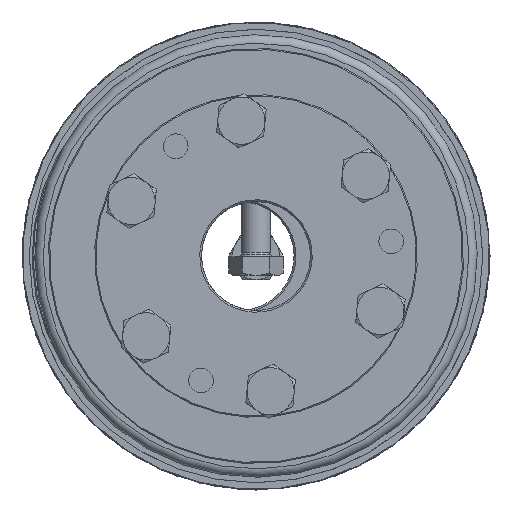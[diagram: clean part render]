
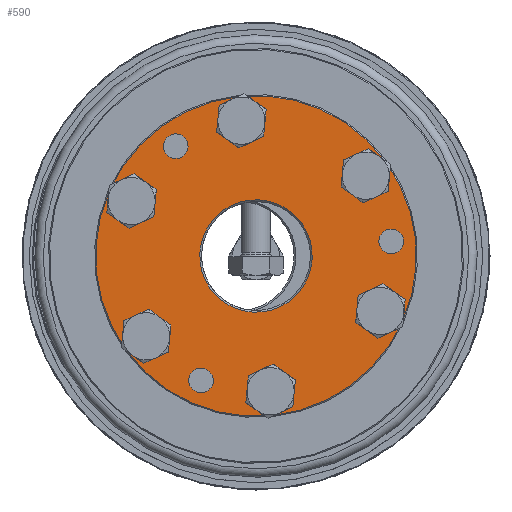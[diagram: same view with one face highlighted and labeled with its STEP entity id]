
A CAD part, left-side view. The second image highlights one B-rep face of the part: STEP entity #590.
In plain terms, the highlighted planar face has unit normal (-1, 0, 0).
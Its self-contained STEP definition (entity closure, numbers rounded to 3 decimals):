
#590 = ADVANCED_FACE( 'NONE', ( #1051, #1052, #1053, #1054, #1055, #1056, #1057, #1058, #1059, #1060, #1061 ), #1062, .F. );
#1051 = FACE_OUTER_BOUND( '', #1742, .T. );
#1052 = FACE_BOUND( '', #1743, .T. );
#1053 = FACE_BOUND( '', #1744, .T. );
#1054 = FACE_BOUND( '', #1745, .T. );
#1055 = FACE_BOUND( '', #1746, .T. );
#1056 = FACE_BOUND( '', #1747, .T. );
#1057 = FACE_BOUND( '', #1748, .T. );
#1058 = FACE_BOUND( '', #1749, .T. );
#1059 = FACE_BOUND( '', #1750, .T. );
#1060 = FACE_BOUND( '', #1751, .T. );
#1061 = FACE_BOUND( '', #1752, .T. );
#1062 = PLANE( '', #1753 );
#1742 = EDGE_LOOP( '', ( #2589 ) );
#1743 = EDGE_LOOP( '', ( #2590 ) );
#1744 = EDGE_LOOP( '', ( #2591 ) );
#1745 = EDGE_LOOP( '', ( #2592 ) );
#1746 = EDGE_LOOP( '', ( #2593 ) );
#1747 = EDGE_LOOP( '', ( #2594 ) );
#1748 = EDGE_LOOP( '', ( #2595 ) );
#1749 = EDGE_LOOP( '', ( #2596 ) );
#1750 = EDGE_LOOP( '', ( #2597 ) );
#1751 = EDGE_LOOP( '', ( #2598 ) );
#1752 = EDGE_LOOP( '', ( #2599 ) );
#1753 = AXIS2_PLACEMENT_3D( '', #2600, #2601, #2602 );
#2589 = ORIENTED_EDGE( '', *, *, #3713, .T. );
#2590 = ORIENTED_EDGE( '', *, *, #3711, .T. );
#2591 = ORIENTED_EDGE( '', *, *, #3726, .F. );
#2592 = ORIENTED_EDGE( '', *, *, #3727, .F. );
#2593 = ORIENTED_EDGE( '', *, *, #3728, .F. );
#2594 = ORIENTED_EDGE( '', *, *, #3716, .F. );
#2595 = ORIENTED_EDGE( '', *, *, #3729, .F. );
#2596 = ORIENTED_EDGE( '', *, *, #3730, .F. );
#2597 = ORIENTED_EDGE( '', *, *, #3705, .F. );
#2598 = ORIENTED_EDGE( '', *, *, #3731, .F. );
#2599 = ORIENTED_EDGE( '', *, *, #3732, .F. );
#2600 = CARTESIAN_POINT( '', ( 0., 15., 0. ) );
#2601 = DIRECTION( '', ( 1., 0., 0. ) );
#2602 = DIRECTION( '', ( 0., 1., 0. ) );
#3705 = EDGE_CURVE( 'NONE', #4090, #4090, #4091, .T. );
#3711 = EDGE_CURVE( 'NONE', #4102, #4102, #4103, .T. );
#3713 = EDGE_CURVE( 'NONE', #4106, #4106, #4107, .T. );
#3716 = EDGE_CURVE( 'NONE', #4112, #4112, #4113, .T. );
#3726 = EDGE_CURVE( 'NONE', #4132, #4132, #4133, .T. );
#3727 = EDGE_CURVE( 'NONE', #4134, #4134, #4135, .T. );
#3728 = EDGE_CURVE( 'NONE', #4136, #4136, #4137, .T. );
#3729 = EDGE_CURVE( 'NONE', #4138, #4138, #4139, .T. );
#3730 = EDGE_CURVE( 'NONE', #4140, #4140, #4141, .T. );
#3731 = EDGE_CURVE( 'NONE', #4142, #4142, #4143, .T. );
#3732 = EDGE_CURVE( 'NONE', #4144, #4144, #4145, .T. );
#4090 = VERTEX_POINT( '', #4676 );
#4091 = CIRCLE( '', #4677, 4.5 );
#4102 = VERTEX_POINT( '', #4688 );
#4103 = CIRCLE( '', #4689, 15.5 );
#4106 = VERTEX_POINT( '', #4692 );
#4107 = CIRCLE( '', #4693, 44.2 );
#4112 = VERTEX_POINT( '', #4698 );
#4113 = CIRCLE( '', #4699, 4.5 );
#4132 = VERTEX_POINT( '', #4718 );
#4133 = CIRCLE( '', #4719, 3.4 );
#4134 = VERTEX_POINT( '', #4720 );
#4135 = CIRCLE( '', #4721, 4.5 );
#4136 = VERTEX_POINT( '', #4722 );
#4137 = CIRCLE( '', #4723, 4.5 );
#4138 = VERTEX_POINT( '', #4724 );
#4139 = CIRCLE( '', #4725, 4.5 );
#4140 = VERTEX_POINT( '', #4726 );
#4141 = CIRCLE( '', #4727, 4.5 );
#4142 = VERTEX_POINT( '', #4728 );
#4143 = CIRCLE( '', #4729, 3.4 );
#4144 = VERTEX_POINT( '', #4730 );
#4145 = CIRCLE( '', #4731, 3.4 );
#4676 = CARTESIAN_POINT( '', ( 0., -18.75, 36.976 ) );
#4677 = AXIS2_PLACEMENT_3D( '', #5638, #5639, #5640 );
#4688 = CARTESIAN_POINT( '', ( 0., 0., -15.5 ) );
#4689 = AXIS2_PLACEMENT_3D( '', #5656, #5657, #5658 );
#4692 = CARTESIAN_POINT( '', ( 0., 0., -44.2 ) );
#4693 = AXIS2_PLACEMENT_3D( '', #5662, #5663, #5664 );
#4698 = CARTESIAN_POINT( '', ( 0., 18.75, -27.976 ) );
#4699 = AXIS2_PLACEMENT_3D( '', #5671, #5672, #5673 );
#4718 = CARTESIAN_POINT( '', ( 0., 0., -34.1 ) );
#4719 = AXIS2_PLACEMENT_3D( '', #5701, #5702, #5703 );
#4720 = CARTESIAN_POINT( '', ( 0., 18.75, 36.976 ) );
#4721 = AXIS2_PLACEMENT_3D( '', #5704, #5705, #5706 );
#4722 = CARTESIAN_POINT( '', ( 0., 37.5, 4.5 ) );
#4723 = AXIS2_PLACEMENT_3D( '', #5707, #5708, #5709 );
#4724 = CARTESIAN_POINT( '', ( 0., -18.75, -27.976 ) );
#4725 = AXIS2_PLACEMENT_3D( '', #5710, #5711, #5712 );
#4726 = CARTESIAN_POINT( '', ( 0., -37.5, 4.5 ) );
#4727 = AXIS2_PLACEMENT_3D( '', #5713, #5714, #5715 );
#4728 = CARTESIAN_POINT( '', ( 0., 32.476, 22.15 ) );
#4729 = AXIS2_PLACEMENT_3D( '', #5716, #5717, #5718 );
#4730 = CARTESIAN_POINT( '', ( 0., -32.476, 22.15 ) );
#4731 = AXIS2_PLACEMENT_3D( '', #5719, #5720, #5721 );
#5638 = CARTESIAN_POINT( '', ( 0., -18.75, 32.476 ) );
#5639 = DIRECTION( '', ( -1., 0., 0. ) );
#5640 = DIRECTION( '', ( 0., 0., 1. ) );
#5656 = CARTESIAN_POINT( '', ( 0., 0., 0. ) );
#5657 = DIRECTION( '', ( 1., 0., 0. ) );
#5658 = DIRECTION( '', ( 0., 0., -1. ) );
#5662 = CARTESIAN_POINT( '', ( 0., 0., 0. ) );
#5663 = DIRECTION( '', ( -1., 0., 0. ) );
#5664 = DIRECTION( '', ( 0., 0., -1. ) );
#5671 = CARTESIAN_POINT( '', ( 0., 18.75, -32.476 ) );
#5672 = DIRECTION( '', ( -1., 0., 0. ) );
#5673 = DIRECTION( '', ( 0., 0., 1. ) );
#5701 = CARTESIAN_POINT( '', ( 0., 0., -37.5 ) );
#5702 = DIRECTION( '', ( -1., 0., 0. ) );
#5703 = DIRECTION( '', ( 0., 0., 1. ) );
#5704 = CARTESIAN_POINT( '', ( 0., 18.75, 32.476 ) );
#5705 = DIRECTION( '', ( -1., 0., 0. ) );
#5706 = DIRECTION( '', ( 0., 0., 1. ) );
#5707 = CARTESIAN_POINT( '', ( 0., 37.5, 0. ) );
#5708 = DIRECTION( '', ( -1., 0., 0. ) );
#5709 = DIRECTION( '', ( 0., 0., 1. ) );
#5710 = CARTESIAN_POINT( '', ( 0., -18.75, -32.476 ) );
#5711 = DIRECTION( '', ( -1., 0., 0. ) );
#5712 = DIRECTION( '', ( 0., 0., 1. ) );
#5713 = CARTESIAN_POINT( '', ( 0., -37.5, 0. ) );
#5714 = DIRECTION( '', ( -1., 0., 0. ) );
#5715 = DIRECTION( '', ( 0., 0., 1. ) );
#5716 = CARTESIAN_POINT( '', ( 0., 32.476, 18.75 ) );
#5717 = DIRECTION( '', ( -1., 0., 0. ) );
#5718 = DIRECTION( '', ( 0., 0., 1. ) );
#5719 = CARTESIAN_POINT( '', ( 0., -32.476, 18.75 ) );
#5720 = DIRECTION( '', ( -1., 0., 0. ) );
#5721 = DIRECTION( '', ( 0., 0., 1. ) );
